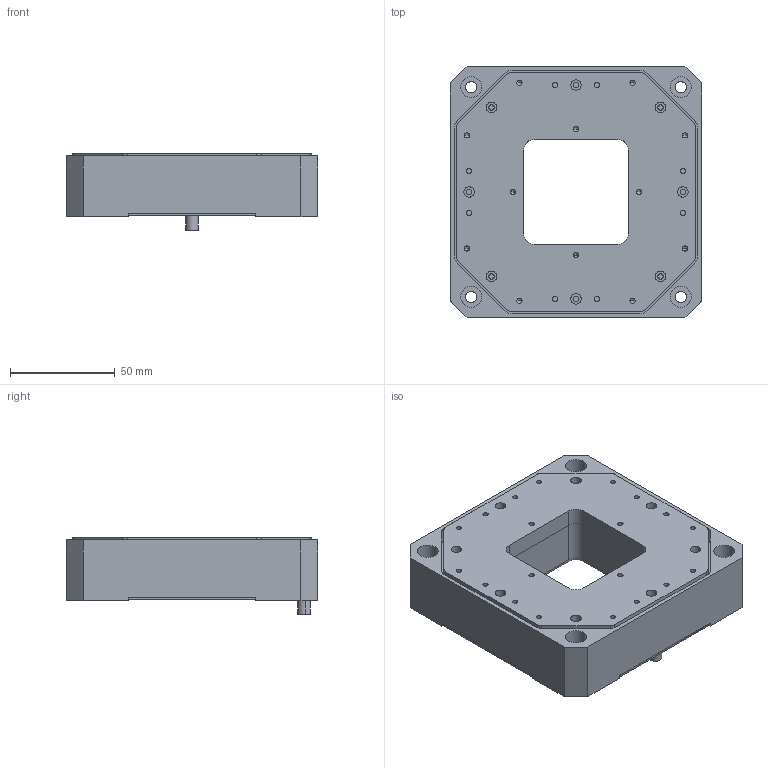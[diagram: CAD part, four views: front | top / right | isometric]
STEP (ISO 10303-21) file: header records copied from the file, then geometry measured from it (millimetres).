
FILE_DESCRIPTION (( 'STEP AP203' ), '1' );
FILE_NAME ('P15.XY50S-B1三维外形图-24.12.25.STEP', '2024-12-25T05:48:38', ( '微软用户' ), ( '微软中国' ), 'SwSTEP 2.0', 'SolidWorks 2016', '' );
FILE_SCHEMA (( 'CONFIG_CONTROL_DESIGN' ));
Length unit declared in the file: millimetre
Products named in the file (1): P15.XY50S-B1三维外形图-24.12.25
Bounding box: 120 x 120 x 36.5 mm (x, y, z)
Volume: 334728.5 mm3; surface area: 92980.5 mm2
Topology: 4 solids, 4 shells, 235 faces, 618 edges, 392 vertices
Faces by surface type: cylinder 122, plane 73, cone 40
Entity records: 7371 total; most frequent: DIRECTION 1342, CARTESIAN_POINT 1222, ORIENTED_EDGE 1188, EDGE_CURVE 594, AXIS2_PLACEMENT_3D 512, VERTEX_POINT 392, EDGE_LOOP 326, VECTOR 318
